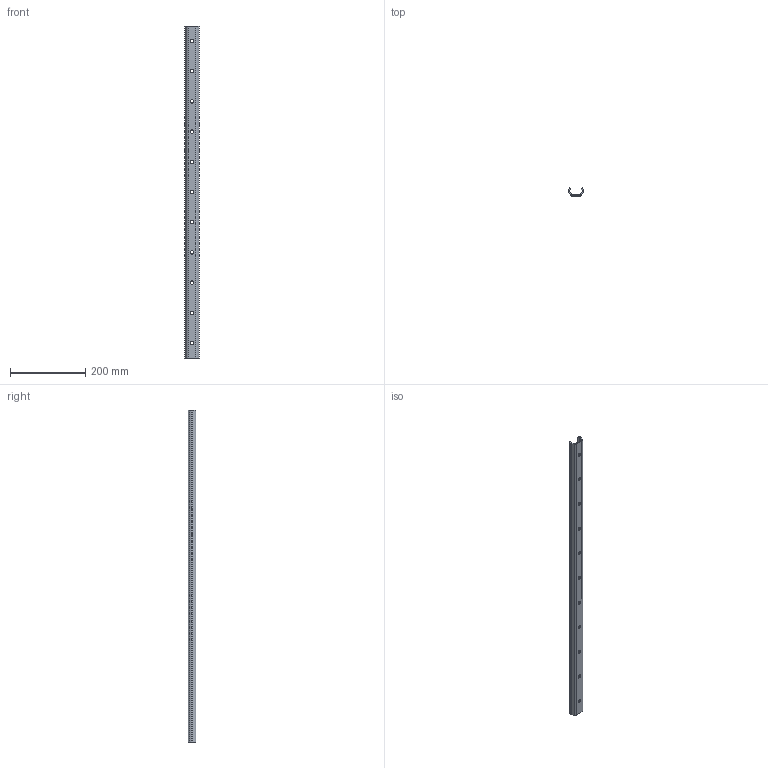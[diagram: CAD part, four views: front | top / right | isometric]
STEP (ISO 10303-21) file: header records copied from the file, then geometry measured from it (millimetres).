
FILE_DESCRIPTION(('STEP AP214'),'1');
FILE_NAME('rail_tex40-880.stp','2019-03-08T08:32:57',('TraceParts'),('TraceParts S.A.'),'Spatial InterOp 3D',' ',' ');
FILE_SCHEMA(('automotive_design'));
Length unit declared in the file: millimetre
Products named in the file (1): rail_tex40-880
Bounding box: 39.53 x 21 x 880 mm (x, y, z)
Volume: 172048.9 mm3; surface area: 121465.4 mm2
Topology: 1 solids, 1 shells, 219 faces, 570 edges, 380 vertices
Faces by surface type: plane 152, cylinder 34, bspline 33
Entity records: 13523 total; most frequent: CARTESIAN_POINT 6471, ORIENTED_EDGE 1140, DIRECTION 946, EDGE_CURVE 570, LINE 436, VECTOR 436, VERTEX_POINT 380, EDGE_LOOP 268
